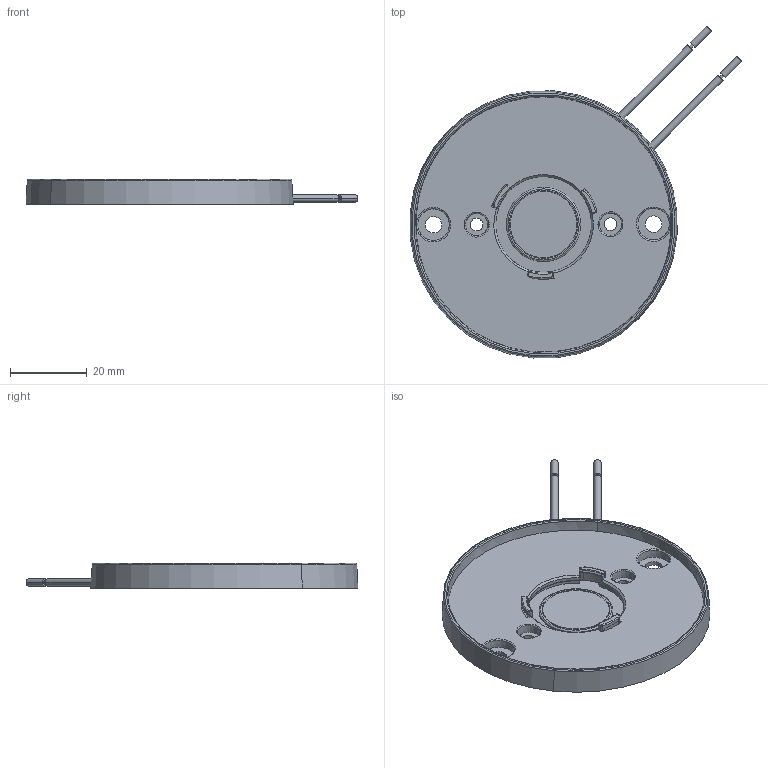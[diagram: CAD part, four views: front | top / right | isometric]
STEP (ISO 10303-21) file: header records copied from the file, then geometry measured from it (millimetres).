
FILE_DESCRIPTION(('Creo Elements/Direct Modeling STEP Export'),'2;1');
FILE_NAME('EASY28_DMS120_INT35.stp','2016-12-06T10:41:04',(''),(''),'PTC Creo Elements/Direct Modeling STEP processor for AP214 (Solid Model)','PTC Creo Elements/Direct Modeling 19.0D 23-Nov-2015 (C) Parametric Technology GmbH','');
FILE_SCHEMA(('AUTOMOTIVE_DESIGN { 1 0 10303 214 1 1 1 1 }'));
Length unit declared in the file: millimetre
Products named in the file (3): SUPPORTO; DMS120; EASY28_DMS120_INT35
Assembly tree (2 placements, depth 2):
  EASY28_DMS120_INT35
    DMS120
    SUPPORTO
Bounding box: 86.74 x 86.74 x 6.72 mm (x, y, z)
Volume: 13523.9 mm3; surface area: 15261.3 mm2
Topology: 2 solids, 2 shells, 351 faces, 918 edges, 570 vertices
Faces by surface type: cylinder 122, plane 92, bspline 59, torus 40, cone 24, sphere 14
Entity records: 16164 total; most frequent: CARTESIAN_POINT 8018, ORIENTED_EDGE 1812, DIRECTION 1417, EDGE_CURVE 906, VERTEX_POINT 570, AXIS2_PLACEMENT_3D 557, EDGE_LOOP 378, FACE_OUTER_BOUND 351
